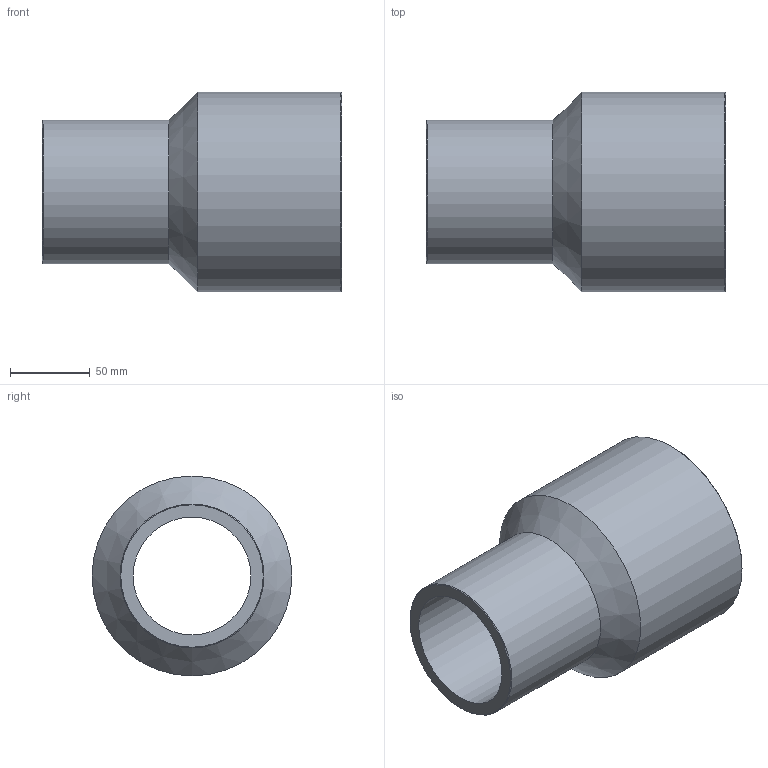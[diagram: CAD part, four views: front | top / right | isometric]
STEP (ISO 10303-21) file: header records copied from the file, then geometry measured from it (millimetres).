
FILE_DESCRIPTION(/* description */ ('Unknown'),/* implementation_level */ '2;1');
FILE_NAME(/* name */ 'RP125090C',/* time_stamp */ '2021-09-17T15:13:27+02:00',/* author */ ('Unknown'),/* organization */ ('Unknown'),/* preprocessor_version */ 'ST-DEVELOPER v16.7',/* originating_system */ 'Solid Edge',/* authorisation */ 'Unknown');
FILE_SCHEMA (('AUTOMOTIVE_DESIGN {1 0 10303 214 3 1 1}'));
Length unit declared in the file: millimetre
Products named in the file (1): RP125090C
Bounding box: 187 x 125 x 125 mm (x, y, z)
Volume: 611083 mm3; surface area: 124996.2 mm2
Topology: 1 solids, 1 shells, 10 faces, 19 edges, 11 vertices
Faces by surface type: cylinder 4, cone 4, plane 2
Full cylindrical faces by diameter (mm): 73.6 x1, 90 x1, 102.2 x1, 125 x1
Entity records: 238 total; most frequent: DIRECTION 42, CARTESIAN_POINT 31, AXIS2_PLACEMENT_3D 21, ORIENTED_EDGE 20, EDGE_LOOP 20, FACE_BOUND 20, EDGE_CURVE 10, VERTEX_POINT 10
